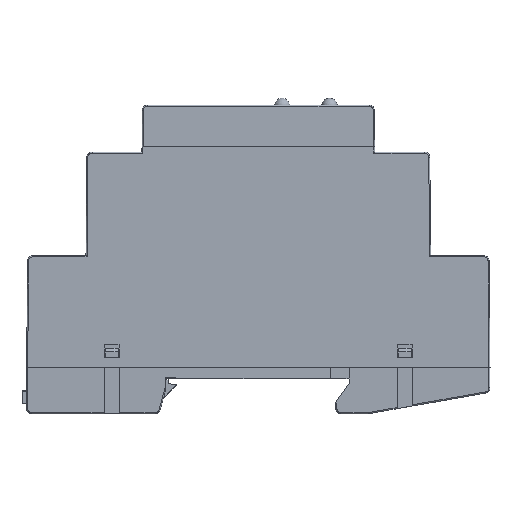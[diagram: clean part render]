
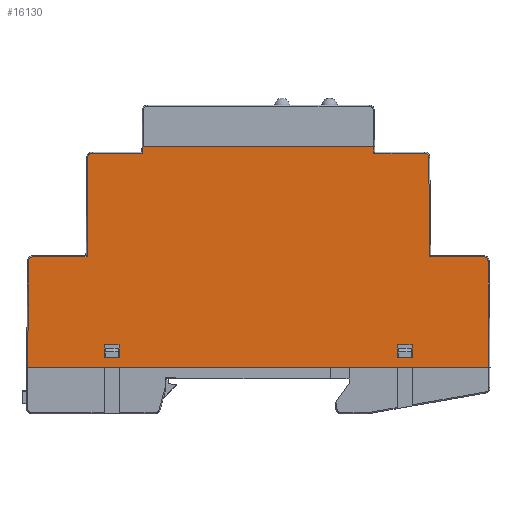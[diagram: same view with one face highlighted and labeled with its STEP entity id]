
A CAD part, top view. The second image highlights one B-rep face of the part: STEP entity #16130.
In plain terms, the highlighted planar face has unit normal (0, 0, 1).
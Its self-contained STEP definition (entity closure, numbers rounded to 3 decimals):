
#27=(
BOUNDED_CURVE()
B_SPLINE_CURVE(2,(#23482,#23483,#23484),.UNSPECIFIED.,.F.,.F.)
B_SPLINE_CURVE_WITH_KNOTS((3,3),(0.,0.12),
 .UNSPECIFIED.)
CURVE()
GEOMETRIC_REPRESENTATION_ITEM()
RATIONAL_B_SPLINE_CURVE((1.,0.984,0.984))
REPRESENTATION_ITEM('')
);
#92=FACE_BOUND('',#1447,.T.);
#93=FACE_BOUND('',#1448,.T.);
#582=FACE_OUTER_BOUND('',#1446,.T.);
#1446=EDGE_LOOP('',(#10648,#10649,#10650,#10651,#10652,#10653,#10654,#10655,
#10656,#10657,#10658,#10659,#10660,#10661,#10662,#10663));
#1447=EDGE_LOOP('',(#10664,#10665,#10666,#10667));
#1448=EDGE_LOOP('',(#10668,#10669,#10670,#10671));
#2211=CIRCLE('',#16910,0.8);
#2219=CIRCLE('',#16931,0.8);
#2246=CIRCLE('',#16992,0.8);
#2249=CIRCLE('',#16999,0.8);
#2562=LINE('',#22611,#4390);
#2589=LINE('',#22688,#4417);
#2590=LINE('',#22692,#4418);
#2592=LINE('',#22701,#4420);
#2594=LINE('',#22706,#4422);
#2614=LINE('',#22769,#4442);
#2655=LINE('',#23001,#4483);
#2658=LINE('',#23007,#4486);
#2671=LINE('',#23039,#4499);
#2673=LINE('',#23051,#4501);
#2675=LINE('',#23056,#4503);
#2676=LINE('',#23063,#4504);
#2798=LINE('',#23410,#4626);
#2806=LINE('',#23467,#4634);
#2814=LINE('',#23487,#4642);
#2815=LINE('',#23489,#4643);
#2816=LINE('',#23490,#4644);
#2817=LINE('',#23492,#4645);
#2818=LINE('',#23493,#4646);
#4390=VECTOR('',#18204,10.);
#4417=VECTOR('',#18281,10.);
#4418=VECTOR('',#18286,10.);
#4420=VECTOR('',#18298,10.);
#4422=VECTOR('',#18302,10.);
#4442=VECTOR('',#18360,10.);
#4483=VECTOR('',#18479,10.);
#4486=VECTOR('',#18484,10.);
#4499=VECTOR('',#18513,10.);
#4501=VECTOR('',#18529,10.);
#4503=VECTOR('',#18535,10.);
#4504=VECTOR('',#18544,10.);
#4626=VECTOR('',#18898,10.);
#4634=VECTOR('',#18928,10.);
#4642=VECTOR('',#18944,10.);
#4643=VECTOR('',#18945,10.);
#4644=VECTOR('',#18946,10.);
#4645=VECTOR('',#18947,10.);
#4646=VECTOR('',#18948,10.);
#6220=VERTEX_POINT('',#22608);
#6221=VERTEX_POINT('',#22610);
#6244=VERTEX_POINT('',#22681);
#6245=VERTEX_POINT('',#22683);
#6246=VERTEX_POINT('',#22687);
#6247=VERTEX_POINT('',#22691);
#6249=VERTEX_POINT('',#22699);
#6251=VERTEX_POINT('',#22705);
#6262=VERTEX_POINT('',#22739);
#6271=VERTEX_POINT('',#22759);
#6275=VERTEX_POINT('',#22767);
#6326=VERTEX_POINT('',#22998);
#6327=VERTEX_POINT('',#23000);
#6329=VERTEX_POINT('',#23006);
#6339=VERTEX_POINT('',#23037);
#6340=VERTEX_POINT('',#23038);
#6342=VERTEX_POINT('',#23045);
#6343=VERTEX_POINT('',#23049);
#6344=VERTEX_POINT('',#23054);
#6345=VERTEX_POINT('',#23058);
#6346=VERTEX_POINT('',#23062);
#6455=VERTEX_POINT('',#23409);
#6464=VERTEX_POINT('',#23488);
#6465=VERTEX_POINT('',#23491);
#7666=EDGE_CURVE('',#6221,#6220,#2562,.T.);
#7703=EDGE_CURVE('',#6244,#6245,#2211,.T.);
#7705=EDGE_CURVE('',#6245,#6246,#2589,.T.);
#7707=EDGE_CURVE('',#6246,#6247,#2590,.T.);
#7712=EDGE_CURVE('',#6249,#6244,#2592,.T.);
#7714=EDGE_CURVE('',#6251,#6221,#2594,.T.);
#7732=EDGE_CURVE('',#6247,#6262,#2219,.T.);
#7746=EDGE_CURVE('',#6271,#6275,#2614,.T.);
#7813=EDGE_CURVE('',#6327,#6326,#2655,.T.);
#7816=EDGE_CURVE('',#6329,#6327,#2658,.T.);
#7831=EDGE_CURVE('',#6339,#6340,#2671,.T.);
#7836=EDGE_CURVE('',#6342,#6339,#2246,.T.);
#7838=EDGE_CURVE('',#6343,#6342,#2673,.T.);
#7841=EDGE_CURVE('',#6344,#6343,#2675,.T.);
#7843=EDGE_CURVE('',#6345,#6344,#2249,.T.);
#7844=EDGE_CURVE('',#6346,#6345,#2676,.T.);
#8018=EDGE_CURVE('',#6262,#6455,#2798,.T.);
#8032=EDGE_CURVE('',#6271,#6346,#2806,.T.);
#8040=EDGE_CURVE('',#6455,#6275,#27,.T.);
#8042=EDGE_CURVE('',#6340,#6249,#2814,.T.);
#8043=EDGE_CURVE('',#6326,#6464,#2815,.T.);
#8044=EDGE_CURVE('',#6464,#6329,#2816,.T.);
#8045=EDGE_CURVE('',#6220,#6465,#2817,.T.);
#8046=EDGE_CURVE('',#6465,#6251,#2818,.T.);
#10648=ORIENTED_EDGE('',*,*,#8040,.F.);
#10649=ORIENTED_EDGE('',*,*,#8018,.F.);
#10650=ORIENTED_EDGE('',*,*,#7732,.F.);
#10651=ORIENTED_EDGE('',*,*,#7707,.F.);
#10652=ORIENTED_EDGE('',*,*,#7705,.F.);
#10653=ORIENTED_EDGE('',*,*,#7703,.F.);
#10654=ORIENTED_EDGE('',*,*,#7712,.F.);
#10655=ORIENTED_EDGE('',*,*,#8042,.F.);
#10656=ORIENTED_EDGE('',*,*,#7831,.F.);
#10657=ORIENTED_EDGE('',*,*,#7836,.F.);
#10658=ORIENTED_EDGE('',*,*,#7838,.F.);
#10659=ORIENTED_EDGE('',*,*,#7841,.F.);
#10660=ORIENTED_EDGE('',*,*,#7843,.F.);
#10661=ORIENTED_EDGE('',*,*,#7844,.F.);
#10662=ORIENTED_EDGE('',*,*,#8032,.F.);
#10663=ORIENTED_EDGE('',*,*,#7746,.T.);
#10664=ORIENTED_EDGE('',*,*,#8043,.T.);
#10665=ORIENTED_EDGE('',*,*,#8044,.T.);
#10666=ORIENTED_EDGE('',*,*,#7816,.T.);
#10667=ORIENTED_EDGE('',*,*,#7813,.T.);
#10668=ORIENTED_EDGE('',*,*,#7714,.T.);
#10669=ORIENTED_EDGE('',*,*,#7666,.T.);
#10670=ORIENTED_EDGE('',*,*,#8045,.T.);
#10671=ORIENTED_EDGE('',*,*,#8046,.T.);
#14626=PLANE('',#17131);
#16130=ADVANCED_FACE('',(#582,#92,#93),#14626,.T.);
#16910=AXIS2_PLACEMENT_3D('',#22684,#18275,#18276);
#16931=AXIS2_PLACEMENT_3D('',#22740,#18335,#18336);
#16992=AXIS2_PLACEMENT_3D('',#23047,#18523,#18524);
#16999=AXIS2_PLACEMENT_3D('',#23060,#18540,#18541);
#17131=AXIS2_PLACEMENT_3D('',#23486,#18942,#18943);
#18204=DIRECTION('',(1.,0.,0.));
#18275=DIRECTION('center_axis',(0.,0.,
-1.));
#18276=DIRECTION('ref_axis',(-0.704,0.71,0.));
#18281=DIRECTION('',(1.,0.,0.));
#18286=DIRECTION('',(0.009,1.,0.));
#18298=DIRECTION('',(0.009,1.,0.));
#18302=DIRECTION('',(0.,1.,0.));
#18335=DIRECTION('center_axis',(0.,0.,
-1.));
#18336=DIRECTION('ref_axis',(-0.704,0.71,0.));
#18360=DIRECTION('',(-1.,0.,0.));
#18479=DIRECTION('',(1.,0.,0.));
#18484=DIRECTION('',(0.,1.,0.));
#18513=DIRECTION('',(0.009,-1.,0.));
#18523=DIRECTION('center_axis',(0.,0.,
-1.));
#18524=DIRECTION('ref_axis',(0.704,0.71,0.));
#18529=DIRECTION('',(1.,0.,0.));
#18535=DIRECTION('',(0.009,-1.,0.));
#18540=DIRECTION('center_axis',(0.,0.,
-1.));
#18541=DIRECTION('ref_axis',(0.704,0.71,0.));
#18544=DIRECTION('',(1.,0.,0.));
#18898=DIRECTION('',(1.,0.,0.));
#18928=DIRECTION('',(0.009,-1.,0.));
#18942=DIRECTION('center_axis',(0.,0.,
1.));
#18943=DIRECTION('ref_axis',(1.,0.,0.));
#18944=DIRECTION('',(-1.,0.,0.));
#18945=DIRECTION('',(0.,-1.,0.));
#18946=DIRECTION('',(-1.,0.,0.));
#18947=DIRECTION('',(0.,-1.,0.));
#18948=DIRECTION('',(-1.,0.,0.));
#22608=CARTESIAN_POINT('',(-27.,5.55,8.9));
#22610=CARTESIAN_POINT('',(-29.8,5.55,8.9));
#22611=CARTESIAN_POINT('',(-5.268,5.55,8.9));
#22681=CARTESIAN_POINT('',(-44.52,21.807,8.9));
#22683=CARTESIAN_POINT('',(-43.72,22.6,8.9));
#22684=CARTESIAN_POINT('Origin',(-43.72,21.8,8.9));
#22687=CARTESIAN_POINT('',(-33.202,22.6,8.9));
#22688=CARTESIAN_POINT('',(-7.068,22.6,8.9));
#22691=CARTESIAN_POINT('',(-33.033,41.907,8.9));
#22692=CARTESIAN_POINT('',(-33.084,36.122,8.9));
#22699=CARTESIAN_POINT('',(-44.7,1.15,8.9));
#22701=CARTESIAN_POINT('',(-44.482,26.121,8.9));
#22705=CARTESIAN_POINT('',(-29.8,3.05,8.9));
#22706=CARTESIAN_POINT('',(-29.8,15.969,8.9));
#22739=CARTESIAN_POINT('',(-32.233,42.7,8.9));
#22740=CARTESIAN_POINT('Origin',(-32.233,41.9,8.9));
#22759=CARTESIAN_POINT('',(22.341,43.9,8.9));
#22767=CARTESIAN_POINT('',(-22.341,43.9,8.9));
#22769=CARTESIAN_POINT('',(-20.902,43.9,8.9));
#22998=CARTESIAN_POINT('',(29.8,5.55,8.9));
#23000=CARTESIAN_POINT('',(27.,5.55,8.9));
#23001=CARTESIAN_POINT('',(5.268,5.55,8.9));
#23006=CARTESIAN_POINT('',(27.,3.05,8.9));
#23007=CARTESIAN_POINT('',(27.,17.219,8.9));
#23037=CARTESIAN_POINT('',(44.52,21.807,8.9));
#23038=CARTESIAN_POINT('',(44.7,1.15,8.9));
#23039=CARTESIAN_POINT('',(44.482,26.121,8.9));
#23045=CARTESIAN_POINT('',(43.72,22.6,8.9));
#23047=CARTESIAN_POINT('Origin',(43.72,21.8,8.9));
#23049=CARTESIAN_POINT('',(33.202,22.6,8.9));
#23051=CARTESIAN_POINT('',(7.068,22.6,8.9));
#23054=CARTESIAN_POINT('',(33.033,41.907,8.9));
#23056=CARTESIAN_POINT('',(33.084,36.122,8.9));
#23058=CARTESIAN_POINT('',(32.233,42.7,8.9));
#23060=CARTESIAN_POINT('Origin',(32.233,41.9,8.9));
#23062=CARTESIAN_POINT('',(22.352,42.7,8.9));
#23063=CARTESIAN_POINT('',(1.643,42.7,8.9));
#23409=CARTESIAN_POINT('',(-22.401,42.7,8.9));
#23410=CARTESIAN_POINT('',(-20.907,42.7,8.9));
#23467=CARTESIAN_POINT('',(22.322,46.125,8.9));
#23482=CARTESIAN_POINT('Ctrl Pts',(-22.401,42.7,8.9));
#23483=CARTESIAN_POINT('Ctrl Pts',(-22.367,43.9,8.9));
#23484=CARTESIAN_POINT('Ctrl Pts',(-22.341,43.9,8.9));
#23486=CARTESIAN_POINT('Origin',(19.263,28.888,8.9));
#23487=CARTESIAN_POINT('',(44.9,1.15,8.9));
#23488=CARTESIAN_POINT('',(29.8,3.05,8.9));
#23489=CARTESIAN_POINT('',(29.8,15.969,8.9));
#23490=CARTESIAN_POINT('',(3.868,3.05,8.9));
#23491=CARTESIAN_POINT('',(-27.,3.05,8.9));
#23492=CARTESIAN_POINT('',(-27.,17.219,8.9));
#23493=CARTESIAN_POINT('',(-3.868,3.05,8.9));
